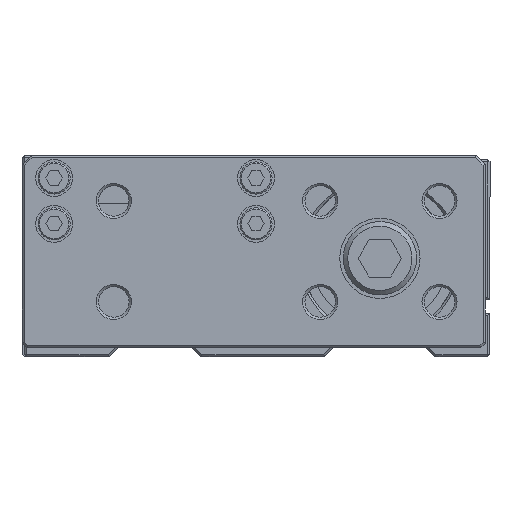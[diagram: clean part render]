
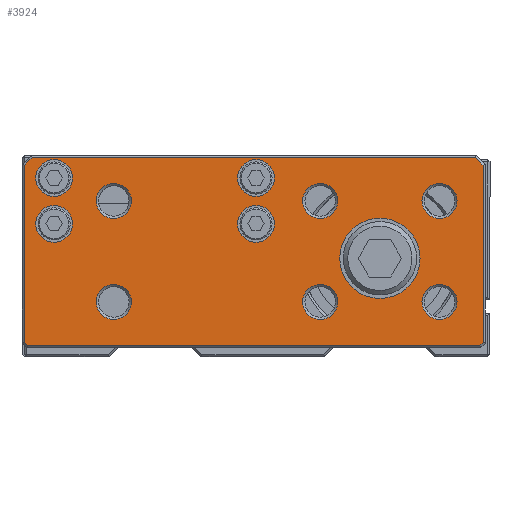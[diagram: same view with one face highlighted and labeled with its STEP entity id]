
A CAD part, front view. The second image highlights one B-rep face of the part: STEP entity #3924.
In plain terms, the highlighted planar face has unit normal (0, -1, 0).
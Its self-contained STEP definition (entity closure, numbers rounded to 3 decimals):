
#3728=CARTESIAN_POINT('',(-9.176,-17.8,12.5));
#3729=VERTEX_POINT('',#3728);
#3730=CARTESIAN_POINT('',(-13.,-17.8,12.5));
#3731=DIRECTION('',(0.0,-1.0,0.0));
#3732=DIRECTION('',(-1.0,0.0,0.0));
#3733=AXIS2_PLACEMENT_3D('',#3730,#3731,#3732);
#3734=CIRCLE('',#3733,3.824);
#3735=EDGE_CURVE('',#3729,#3729,#3734,.T.);
#3740=CARTESIAN_POINT('',(-78.0,-17.8,22.5));
#3741=DIRECTION('',(0.0,-1.0,0.0));
#3742=DIRECTION('',(0.0,0.0,-1.0));
#3743=AXIS2_PLACEMENT_3D('',#3740,#3741,#3742);
#3744=PLANE('',#3743);
#3745=CARTESIAN_POINT('',(22.5,-17.8,20.293));
#3746=VERTEX_POINT('',#3745);
#3747=CARTESIAN_POINT('',(22.5,-17.8,-18.293));
#3748=VERTEX_POINT('',#3747);
#3749=CARTESIAN_POINT('',(22.5,-17.8,20.293));
#3750=DIRECTION('',(0.0,0.0,-1.0));
#3751=VECTOR('',#3750,38.586);
#3752=LINE('',#3749,#3751);
#3753=EDGE_CURVE('',#3746,#3748,#3752,.T.);
#3754=ORIENTED_EDGE('',*,*,#3753,.F.);
#3755=CARTESIAN_POINT('',(20.793,-17.8,22.0));
#3756=VERTEX_POINT('',#3755);
#3757=CARTESIAN_POINT('',(20.793,-17.8,22.0));
#3758=DIRECTION('',(0.707,0.0,-0.707));
#3759=VECTOR('',#3758,2.414);
#3760=LINE('',#3757,#3759);
#3761=EDGE_CURVE('',#3756,#3746,#3760,.T.);
#3762=ORIENTED_EDGE('',*,*,#3761,.F.);
#3763=CARTESIAN_POINT('',(-75.793,-17.8,22.0));
#3764=VERTEX_POINT('',#3763);
#3765=CARTESIAN_POINT('',(-75.793,-17.8,22.0));
#3766=DIRECTION('',(1.0,0.0,0.0));
#3767=VECTOR('',#3766,96.586);
#3768=LINE('',#3765,#3767);
#3769=EDGE_CURVE('',#3764,#3756,#3768,.T.);
#3770=ORIENTED_EDGE('',*,*,#3769,.F.);
#3771=CARTESIAN_POINT('',(-77.5,-17.8,20.293));
#3772=VERTEX_POINT('',#3771);
#3773=CARTESIAN_POINT('',(-77.5,-17.8,20.293));
#3774=DIRECTION('',(0.707,0.0,0.707));
#3775=VECTOR('',#3774,2.414);
#3776=LINE('',#3773,#3775);
#3777=EDGE_CURVE('',#3772,#3764,#3776,.T.);
#3778=ORIENTED_EDGE('',*,*,#3777,.F.);
#3779=CARTESIAN_POINT('',(-77.5,-17.8,-18.293));
#3780=VERTEX_POINT('',#3779);
#3781=CARTESIAN_POINT('',(-77.5,-17.8,-18.293));
#3782=DIRECTION('',(0.0,0.0,1.0));
#3783=VECTOR('',#3782,38.586);
#3784=LINE('',#3781,#3783);
#3785=EDGE_CURVE('',#3780,#3772,#3784,.T.);
#3786=ORIENTED_EDGE('',*,*,#3785,.F.);
#3787=CARTESIAN_POINT('',(-76.793,-17.8,-19.));
#3788=VERTEX_POINT('',#3787);
#3789=CARTESIAN_POINT('',(-76.793,-17.8,-19.));
#3790=DIRECTION('',(-0.707,0.0,0.707));
#3791=VECTOR('',#3790,1.);
#3792=LINE('',#3789,#3791);
#3793=EDGE_CURVE('',#3788,#3780,#3792,.T.);
#3794=ORIENTED_EDGE('',*,*,#3793,.F.);
#3795=CARTESIAN_POINT('',(21.793,-17.8,-19.));
#3796=VERTEX_POINT('',#3795);
#3797=CARTESIAN_POINT('',(21.793,-17.8,-19.));
#3798=DIRECTION('',(-1.0,0.0,0.0));
#3799=VECTOR('',#3798,98.586);
#3800=LINE('',#3797,#3799);
#3801=EDGE_CURVE('',#3796,#3788,#3800,.T.);
#3802=ORIENTED_EDGE('',*,*,#3801,.F.);
#3803=CARTESIAN_POINT('',(22.5,-17.8,-18.293));
#3804=DIRECTION('',(-0.707,0.0,-0.707));
#3805=VECTOR('',#3804,1.);
#3806=LINE('',#3803,#3805);
#3807=EDGE_CURVE('',#3748,#3796,#3806,.T.);
#3808=ORIENTED_EDGE('',*,*,#3807,.F.);
#3809=EDGE_LOOP('',(#3754,#3762,#3770,#3778,#3786,#3794,#3802,#3808));
#3810=FACE_OUTER_BOUND('',#3809,.T.);
#3811=CARTESIAN_POINT('',(-9.176,-17.8,-9.5));
#3812=VERTEX_POINT('',#3811);
#3813=CARTESIAN_POINT('',(-13.,-17.8,-9.5));
#3814=DIRECTION('',(0.0,-1.0,0.0));
#3815=DIRECTION('',(-1.0,0.0,0.0));
#3816=AXIS2_PLACEMENT_3D('',#3813,#3814,#3815);
#3817=CIRCLE('',#3816,3.824);
#3818=EDGE_CURVE('',#3812,#3812,#3817,.T.);
#3819=ORIENTED_EDGE('',*,*,#3818,.F.);
#3820=EDGE_LOOP('',(#3819));
#3821=FACE_BOUND('',#3820,.T.);
#3822=CARTESIAN_POINT('',(16.824,-17.8,-9.5));
#3823=VERTEX_POINT('',#3822);
#3824=CARTESIAN_POINT('',(13.,-17.8,-9.5));
#3825=DIRECTION('',(0.0,-1.0,0.0));
#3826=DIRECTION('',(-1.0,0.0,0.0));
#3827=AXIS2_PLACEMENT_3D('',#3824,#3825,#3826);
#3828=CIRCLE('',#3827,3.824);
#3829=EDGE_CURVE('',#3823,#3823,#3828,.T.);
#3830=ORIENTED_EDGE('',*,*,#3829,.F.);
#3831=EDGE_LOOP('',(#3830));
#3832=FACE_BOUND('',#3831,.T.);
#3833=CARTESIAN_POINT('',(16.824,-17.8,12.5));
#3834=VERTEX_POINT('',#3833);
#3835=CARTESIAN_POINT('',(13.,-17.8,12.5));
#3836=DIRECTION('',(0.0,-1.0,0.0));
#3837=DIRECTION('',(-1.0,0.0,0.0));
#3838=AXIS2_PLACEMENT_3D('',#3835,#3836,#3837);
#3839=CIRCLE('',#3838,3.824);
#3840=EDGE_CURVE('',#3834,#3834,#3839,.T.);
#3841=ORIENTED_EDGE('',*,*,#3840,.F.);
#3842=EDGE_LOOP('',(#3841));
#3843=FACE_BOUND('',#3842,.T.);
#3844=CARTESIAN_POINT('',(8.75,-17.8,0.0));
#3845=VERTEX_POINT('',#3844);
#3846=CARTESIAN_POINT('',(0.,-17.8,0.0));
#3847=DIRECTION('',(0.0,1.0,0.0));
#3848=DIRECTION('',(1.0,0.0,0.0));
#3849=AXIS2_PLACEMENT_3D('',#3846,#3847,#3848);
#3850=CIRCLE('',#3849,8.75);
#3851=EDGE_CURVE('',#3845,#3845,#3850,.T.);
#3852=ORIENTED_EDGE('',*,*,#3851,.T.);
#3853=EDGE_LOOP('',(#3852));
#3854=FACE_BOUND('',#3853,.T.);
#3855=CARTESIAN_POINT('',(-67.0,-17.8,17.5));
#3856=VERTEX_POINT('',#3855);
#3857=CARTESIAN_POINT('',(-71.0,-17.8,17.5));
#3858=DIRECTION('',(0.0,1.0,0.0));
#3859=DIRECTION('',(1.0,0.0,0.0));
#3860=AXIS2_PLACEMENT_3D('',#3857,#3858,#3859);
#3861=CIRCLE('',#3860,4.0);
#3862=EDGE_CURVE('',#3856,#3856,#3861,.T.);
#3863=ORIENTED_EDGE('',*,*,#3862,.T.);
#3864=EDGE_LOOP('',(#3863));
#3865=FACE_BOUND('',#3864,.T.);
#3866=CARTESIAN_POINT('',(-67.0,-17.8,7.5));
#3867=VERTEX_POINT('',#3866);
#3868=CARTESIAN_POINT('',(-71.0,-17.8,7.5));
#3869=DIRECTION('',(0.0,1.0,0.0));
#3870=DIRECTION('',(1.0,0.0,0.0));
#3871=AXIS2_PLACEMENT_3D('',#3868,#3869,#3870);
#3872=CIRCLE('',#3871,4.0);
#3873=EDGE_CURVE('',#3867,#3867,#3872,.T.);
#3874=ORIENTED_EDGE('',*,*,#3873,.T.);
#3875=EDGE_LOOP('',(#3874));
#3876=FACE_BOUND('',#3875,.T.);
#3877=CARTESIAN_POINT('',(-23.,-17.8,17.5));
#3878=VERTEX_POINT('',#3877);
#3879=CARTESIAN_POINT('',(-27.0,-17.8,17.5));
#3880=DIRECTION('',(0.0,1.0,0.0));
#3881=DIRECTION('',(1.0,0.0,0.0));
#3882=AXIS2_PLACEMENT_3D('',#3879,#3880,#3881);
#3883=CIRCLE('',#3882,4.0);
#3884=EDGE_CURVE('',#3878,#3878,#3883,.T.);
#3885=ORIENTED_EDGE('',*,*,#3884,.T.);
#3886=EDGE_LOOP('',(#3885));
#3887=FACE_BOUND('',#3886,.T.);
#3888=CARTESIAN_POINT('',(-23.,-17.8,7.5));
#3889=VERTEX_POINT('',#3888);
#3890=CARTESIAN_POINT('',(-27.0,-17.8,7.5));
#3891=DIRECTION('',(0.0,1.0,0.0));
#3892=DIRECTION('',(1.0,0.0,0.0));
#3893=AXIS2_PLACEMENT_3D('',#3890,#3891,#3892);
#3894=CIRCLE('',#3893,4.0);
#3895=EDGE_CURVE('',#3889,#3889,#3894,.T.);
#3896=ORIENTED_EDGE('',*,*,#3895,.T.);
#3897=EDGE_LOOP('',(#3896));
#3898=FACE_BOUND('',#3897,.T.);
#3899=CARTESIAN_POINT('',(-54.177,-17.8,-9.5));
#3900=VERTEX_POINT('',#3899);
#3901=CARTESIAN_POINT('',(-58.0,-17.8,-9.5));
#3902=DIRECTION('',(0.0,-1.0,0.0));
#3903=DIRECTION('',(-1.0,0.0,0.0));
#3904=AXIS2_PLACEMENT_3D('',#3901,#3902,#3903);
#3905=CIRCLE('',#3904,3.823);
#3906=EDGE_CURVE('',#3900,#3900,#3905,.T.);
#3907=ORIENTED_EDGE('',*,*,#3906,.F.);
#3908=EDGE_LOOP('',(#3907));
#3909=FACE_BOUND('',#3908,.T.);
#3910=CARTESIAN_POINT('',(-54.177,-17.8,12.5));
#3911=VERTEX_POINT('',#3910);
#3912=CARTESIAN_POINT('',(-58.,-17.8,12.5));
#3913=DIRECTION('',(0.0,-1.0,0.0));
#3914=DIRECTION('',(-1.0,0.0,0.0));
#3915=AXIS2_PLACEMENT_3D('',#3912,#3913,#3914);
#3916=CIRCLE('',#3915,3.823);
#3917=EDGE_CURVE('',#3911,#3911,#3916,.T.);
#3918=ORIENTED_EDGE('',*,*,#3917,.F.);
#3919=EDGE_LOOP('',(#3918));
#3920=FACE_BOUND('',#3919,.T.);
#3921=ORIENTED_EDGE('',*,*,#3735,.F.);
#3922=EDGE_LOOP('',(#3921));
#3923=FACE_BOUND('',#3922,.T.);
#3924=ADVANCED_FACE('',(#3810,#3821,#3832,#3843,#3854,#3865,#3876,#3887,#3898,#3909,#3920,#3923),#3744,.T.);
